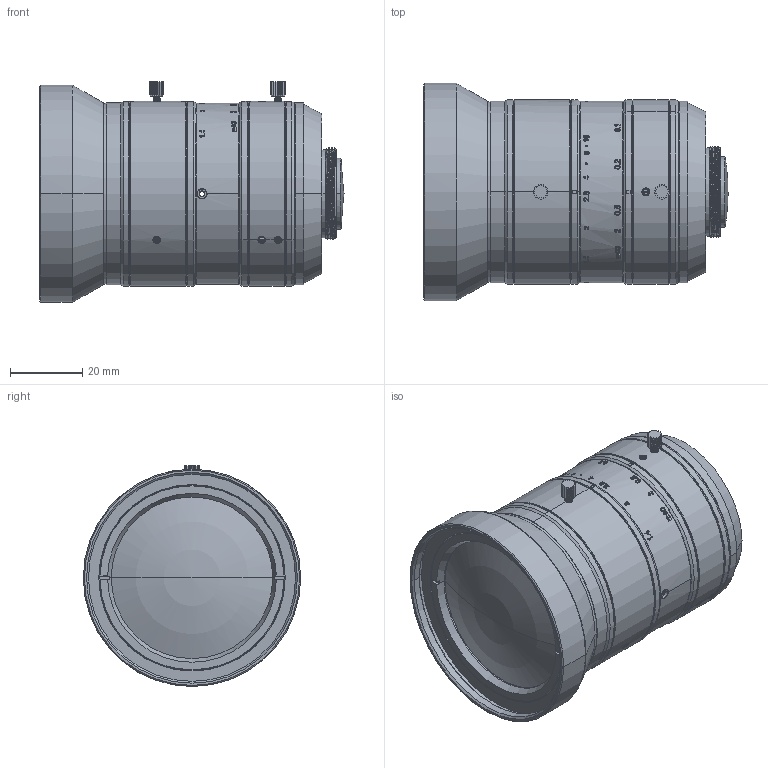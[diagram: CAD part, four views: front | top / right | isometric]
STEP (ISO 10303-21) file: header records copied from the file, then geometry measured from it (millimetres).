
FILE_DESCRIPTION((''),'2;1');
FILE_NAME('MVL-KF0814M-12MPE_ASM','2020-11-26T11:49:33',('dihaoping'),(''),'CREO PARAMETRIC BY PTC INC, 2017260','CREO PARAMETRIC BY PTC INC, 2017260','');
FILE_SCHEMA(('CONFIG_CONTROL_DESIGN'));
Length unit declared in the file: millimetre
Products named in the file (22): MSBR-60_1_2_3; MSBR-59_1_2; MSBR-58_1_2; MSBR-41_1_2_3_4; MSBR-40_1_2_3_4; MSBR-39_1_2_3_4; MSBR-37_1_2_3_4; MSBR-36_1_2_3_4; MSBR-35_1_2_3_4; MSBR-34_1_2_3_4; MSBR-24_1_2; MSBR-22_1_2; MSBR-15_1_2_3_4_5_6; MSBR-14_1_2_3_4_5; MSBR-13_1_2_3_4_5; MSBR-12_1_2_3_4; MSBR-8_1_2; MSBR-5_1_2_3_4_5_6_7_8; MSBR-4_1_2_3_4_5_6_7_8; MSBR-2_1_2_3_4_5_6_7_8; MVL-KF0814M-12MPE_ASM_ASM_1_ASM; MVL-KF0814M-12MPE_ASM
Assembly tree (21 placements, depth 3):
  MVL-KF0814M-12MPE_ASM
    MVL-KF0814M-12MPE_ASM_ASM_1_ASM
      MSBR-60_1_2_3
      MSBR-59_1_2
      MSBR-58_1_2
      MSBR-41_1_2_3_4
      MSBR-40_1_2_3_4
      MSBR-39_1_2_3_4
      MSBR-37_1_2_3_4
      MSBR-36_1_2_3_4
      MSBR-35_1_2_3_4
      MSBR-34_1_2_3_4
      MSBR-24_1_2
      MSBR-22_1_2
      MSBR-15_1_2_3_4_5_6
      MSBR-14_1_2_3_4_5
      MSBR-13_1_2_3_4_5
      MSBR-12_1_2_3_4
      MSBR-8_1_2
      MSBR-5_1_2_3_4_5_6_7_8
      MSBR-4_1_2_3_4_5_6_7_8
      MSBR-2_1_2_3_4_5_6_7_8
Bounding box: 83.99 x 60 x 61 mm (x, y, z)
Volume: 68273.2 mm3; surface area: 48168 mm2
Topology: 19 solids, 19 shells, 1625 faces, 4461 edges, 2960 vertices
Faces by surface type: bspline 548, cylinder 449, plane 389, cone 198, torus 16, extrusion 13, sphere 12
Entity records: 98850 total; most frequent: CARTESIAN_POINT 61001, ORIENTED_EDGE 8898, DIRECTION 6052, EDGE_CURVE 4449, VERTEX_POINT 2960, AXIS2_PLACEMENT_3D 2197, EDGE_LOOP 1767, B_SPLINE_CURVE_WITH_KNOTS 1747
